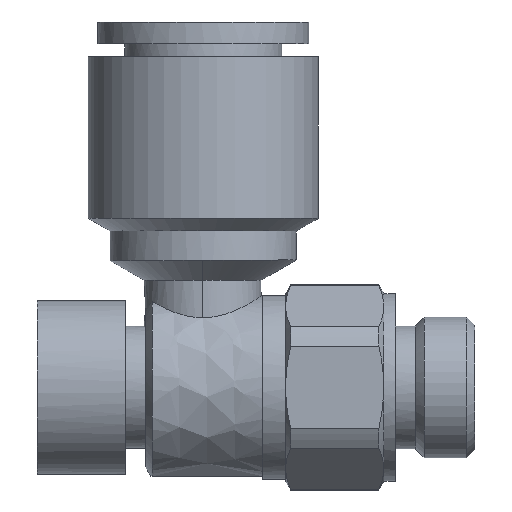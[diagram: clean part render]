
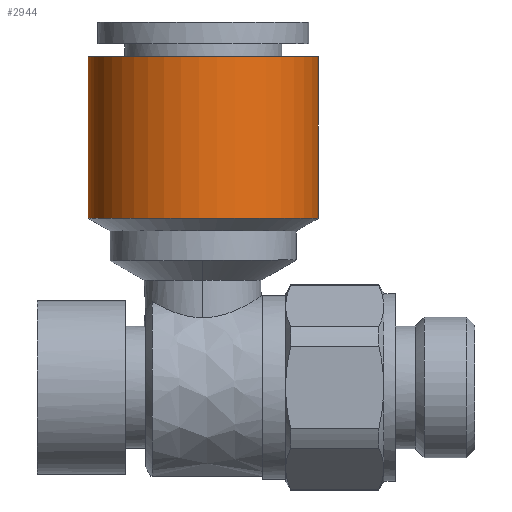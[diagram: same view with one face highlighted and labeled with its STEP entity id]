
A CAD part, left-side view. The second image highlights one B-rep face of the part: STEP entity #2944.
In plain terms, the highlighted free-form (B-spline) face has degree [1, 3] with [2, 4] control points.
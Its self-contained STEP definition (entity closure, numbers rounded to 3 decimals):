
#114 = CARTESIAN_POINT ( 'NONE',  ( 0., 5.35, 11.7 ) ) ;
#201 = CARTESIAN_POINT ( 'NONE',  ( 0., 21.25, 11.7 ) ) ;
#253 = ORIENTED_EDGE ( 'NONE', *, *, #2097, .T. ) ;
#298 = VERTEX_POINT ( 'NONE', #2195 ) ;
#374 = CARTESIAN_POINT ( 'NONE',  ( 0., 21.25, 22.9 ) ) ;
#436 = EDGE_CURVE ( 'NONE', #1156, #3212, #1258, .T. ) ;
#654 = CARTESIAN_POINT ( 'NONE',  ( -15.9, 21.25, 22.9 ) ) ;
#828 = CARTESIAN_POINT ( 'NONE',  ( 0., 5.35, 11.7 ) ) ;
#958 = CARTESIAN_POINT ( 'NONE',  ( -15.9, 21.25, 11.7 ) ) ;
#1001 = ORIENTED_EDGE ( 'NONE', *, *, #1603, .T. ) ;
#1071 = B_SPLINE_CURVE_WITH_KNOTS ( 'NONE', 1,
 ( #3080, #1113 ),
 .UNSPECIFIED., .F., .F.,
 ( 2, 2 ),
 ( 0., 1. ),
 .UNSPECIFIED. ) ;
#1113 = CARTESIAN_POINT ( 'NONE',  ( 0., 21.25, 22.9 ) ) ;
#1114 = CARTESIAN_POINT ( 'NONE',  ( 0., 5.35, 11.7 ) ) ;
#1139 = CARTESIAN_POINT ( 'NONE',  ( -15.9, 5.35, 11.7 ) ) ;
#1156 = VERTEX_POINT ( 'NONE', #1206 ) ;
#1206 = CARTESIAN_POINT ( 'NONE',  ( 0., 5.35, 11.7 ) ) ;
#1258 =( BOUNDED_CURVE ( )  B_SPLINE_CURVE ( 3, ( #828, #1806, #2587, #1820 ),
 .UNSPECIFIED., .F., .F. ) 
 B_SPLINE_CURVE_WITH_KNOTS ( ( 4, 4 ),
 ( 0., 1. ),
 .UNSPECIFIED. ) 
 CURVE ( )  GEOMETRIC_REPRESENTATION_ITEM ( )  RATIONAL_B_SPLINE_CURVE ( ( 1., 0.333, 0.333, 1. ) ) 
 REPRESENTATION_ITEM ( '' )  );
#1453 = CARTESIAN_POINT ( 'NONE',  ( -15.9, 5.35, 22.9 ) ) ;
#1587 = CARTESIAN_POINT ( 'NONE',  ( 0., 5.35, 22.9 ) ) ;
#1603 = EDGE_CURVE ( 'NONE', #2687, #298, #2441, .T. ) ;
#1639 = CARTESIAN_POINT ( 'NONE',  ( 0., 5.35, 22.9 ) ) ;
#1787 = ORIENTED_EDGE ( 'NONE', *, *, #3110, .F. ) ;
#1806 = CARTESIAN_POINT ( 'NONE',  ( -15.9, 5.35, 11.7 ) ) ;
#1820 = CARTESIAN_POINT ( 'NONE',  ( 0., 21.25, 11.7 ) ) ;
#1890 = CARTESIAN_POINT ( 'NONE',  ( 0., 5.35, 22.9 ) ) ;
#1916 = CARTESIAN_POINT ( 'NONE',  ( 0., 5.35, 22.9 ) ) ;
#1933 = CARTESIAN_POINT ( 'NONE',  ( 0., 21.25, 11.7 ) ) ;
#2097 = EDGE_CURVE ( 'NONE', #1156, #2687, #2235, .T. ) ;
#2195 = CARTESIAN_POINT ( 'NONE',  ( 0., 21.25, 22.9 ) ) ;
#2235 = B_SPLINE_CURVE_WITH_KNOTS ( 'NONE', 1,
 ( #1114, #1587 ),
 .UNSPECIFIED., .F., .F.,
 ( 2, 2 ),
 ( 0., 1. ),
 .UNSPECIFIED. ) ;
#2395 = CARTESIAN_POINT ( 'NONE',  ( 0., 21.25, 22.9 ) ) ;
#2441 =( BOUNDED_CURVE ( )  B_SPLINE_CURVE ( 3, ( #1890, #1453, #654, #2395 ),
 .UNSPECIFIED., .F., .T. ) 
 B_SPLINE_CURVE_WITH_KNOTS ( ( 4, 4 ),
 ( 0.5, 1. ),
 .UNSPECIFIED. ) 
 CURVE ( )  GEOMETRIC_REPRESENTATION_ITEM ( )  RATIONAL_B_SPLINE_CURVE ( ( 1., 0.333, 0.333, 1. ) ) 
 REPRESENTATION_ITEM ( '' )  );
#2587 = CARTESIAN_POINT ( 'NONE',  ( -15.9, 21.25, 11.7 ) ) ;
#2602 = FACE_OUTER_BOUND ( 'NONE', #3186, .T. ) ;
#2687 = VERTEX_POINT ( 'NONE', #1639 ) ;
#2939 = CARTESIAN_POINT ( 'NONE',  ( -15.9, 21.25, 22.9 ) ) ;
#2944 = ADVANCED_FACE ( 'NONE', ( #2602 ), #3163, .T. ) ;
#3080 = CARTESIAN_POINT ( 'NONE',  ( 0., 21.25, 11.7 ) ) ;
#3101 = CARTESIAN_POINT ( 'NONE',  ( -15.9, 5.35, 22.9 ) ) ;
#3110 = EDGE_CURVE ( 'NONE', #3212, #298, #1071, .T. ) ;
#3162 = ORIENTED_EDGE ( 'NONE', *, *, #436, .F. ) ;
#3163 =( BOUNDED_SURFACE ( )  B_SPLINE_SURFACE ( 1, 3, ( 
 ( #114, #1139, #958, #1933 ),
 ( #1916, #3101, #2939, #374 ) ),
 .UNSPECIFIED., .F., .F., .F. ) 
 B_SPLINE_SURFACE_WITH_KNOTS ( ( 2, 2 ),
 ( 4, 4 ),
 ( 0., 1. ),
 ( 0., 1. ),
 .UNSPECIFIED. ) 
 GEOMETRIC_REPRESENTATION_ITEM ( )  RATIONAL_B_SPLINE_SURFACE ( (
 ( 1., 0.333, 0.333, 1.),
 ( 1., 0.333, 0.333, 1.) ) ) 
 REPRESENTATION_ITEM ( '' )  SURFACE ( )  );
#3186 = EDGE_LOOP ( 'NONE', ( #3162, #253, #1001, #1787 ) ) ;
#3212 = VERTEX_POINT ( 'NONE', #201 ) ;
